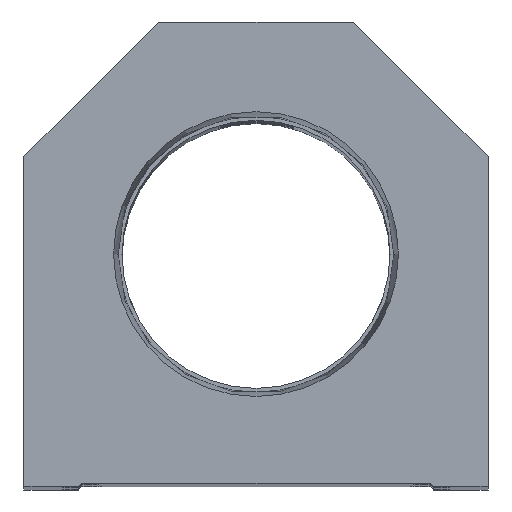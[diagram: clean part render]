
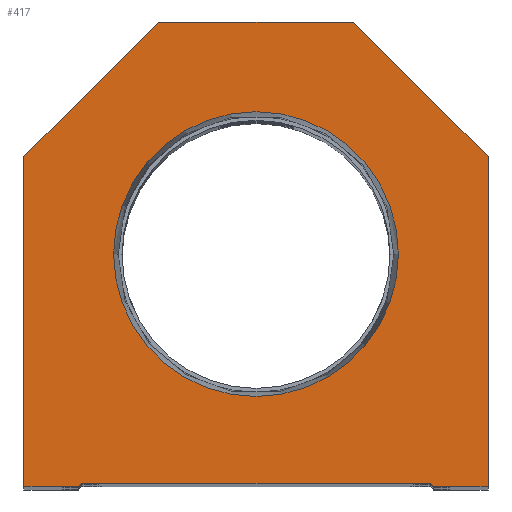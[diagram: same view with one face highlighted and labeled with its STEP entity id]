
A CAD part, top view. The second image highlights one B-rep face of the part: STEP entity #417.
In plain terms, the highlighted planar face has unit normal (0, 0, 1).
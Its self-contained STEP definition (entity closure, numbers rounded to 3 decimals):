
#32 = EDGE_CURVE ( 'NONE', #4932, #18296, #14459, .T. ) ;
#224 = CARTESIAN_POINT ( 'NONE',  ( -38.1, 0., 0. ) ) ;
#239 = EDGE_CURVE ( 'NONE', #10176, #18391, #8697, .T. ) ;
#417 = ADVANCED_FACE ( 'NONE', ( #17327, #5953 ), #9272, .T. ) ;
#639 = EDGE_LOOP ( 'NONE', ( #13452, #16260, #19597, #16069, #16029, #6129, #15986, #8001, #9970, #10981 ) ) ;
#815 = DIRECTION ( 'NONE',  ( 0., 1., 0. ) ) ;
#915 = VERTEX_POINT ( 'NONE', #11599 ) ;
#965 = CARTESIAN_POINT ( 'NONE',  ( -23.374, 38.1, 0. ) ) ;
#1242 = CARTESIAN_POINT ( 'NONE',  ( 0., 38.1, 0. ) ) ;
#1519 = DIRECTION ( 'NONE',  ( -0.707, -0.707, 0. ) ) ;
#1606 = DIRECTION ( 'NONE',  ( 1., 0., 0. ) ) ;
#1734 = EDGE_CURVE ( 'NONE', #18391, #10176, #9438, .T. ) ;
#1834 = VECTOR ( 'NONE', #6836, 1000. ) ;
#1920 = LINE ( 'NONE', #2223, #4078 ) ;
#2096 = CARTESIAN_POINT ( 'NONE',  ( -29.1, 0., 0. ) ) ;
#2223 = CARTESIAN_POINT ( 'NONE',  ( -28.6, 0., 0. ) ) ;
#2605 = VERTEX_POINT ( 'NONE', #11393 ) ;
#3098 = CARTESIAN_POINT ( 'NONE',  ( 29.1, 0., 0. ) ) ;
#3521 = EDGE_CURVE ( 'NONE', #14079, #20235, #7235, .T. ) ;
#3636 = AXIS2_PLACEMENT_3D ( 'NONE', #1242, #4751, #19134 ) ;
#4060 = LINE ( 'NONE', #21085, #21031 ) ;
#4078 = VECTOR ( 'NONE', #5227, 1000. ) ;
#4221 = CARTESIAN_POINT ( 'NONE',  ( 38.1, 0., 0. ) ) ;
#4584 = AXIS2_PLACEMENT_3D ( 'NONE', #17565, #4789, #9825 ) ;
#4698 = CARTESIAN_POINT ( 'NONE',  ( -28.6, 0.5, 0. ) ) ;
#4751 = DIRECTION ( 'NONE',  ( 0., 0., 1. ) ) ;
#4789 = DIRECTION ( 'NONE',  ( 0., 0., 1. ) ) ;
#4932 = VERTEX_POINT ( 'NONE', #14924 ) ;
#4945 = CARTESIAN_POINT ( 'NONE',  ( 38.1, 54.1, 0. ) ) ;
#5227 = DIRECTION ( 'NONE',  ( 1., 0., 0. ) ) ;
#5790 = VECTOR ( 'NONE', #815, 1000. ) ;
#5953 = FACE_OUTER_BOUND ( 'NONE', #639, .T. ) ;
#6129 = ORIENTED_EDGE ( 'NONE', *, *, #3521, .T. ) ;
#6169 = EDGE_CURVE ( 'NONE', #9382, #16173, #1920, .T. ) ;
#6661 = LINE ( 'NONE', #224, #8600 ) ;
#6762 = DIRECTION ( 'NONE',  ( 0., -1., 0. ) ) ;
#6836 = DIRECTION ( 'NONE',  ( 0.707, -0.707, 0. ) ) ;
#7235 = LINE ( 'NONE', #4221, #5790 ) ;
#7550 = CARTESIAN_POINT ( 'NONE',  ( 0., 0., 0. ) ) ;
#7777 = CARTESIAN_POINT ( 'NONE',  ( 16., 76.2, 0. ) ) ;
#7917 = EDGE_LOOP ( 'NONE', ( #14596, #8285 ) ) ;
#8001 = ORIENTED_EDGE ( 'NONE', *, *, #18330, .T. ) ;
#8072 = VECTOR ( 'NONE', #9860, 1000. ) ;
#8285 = ORIENTED_EDGE ( 'NONE', *, *, #1734, .F. ) ;
#8600 = VECTOR ( 'NONE', #6762, 1000. ) ;
#8697 = CIRCLE ( 'NONE', #4584, 23.374 ) ;
#9272 = PLANE ( 'NONE',  #11079 ) ;
#9344 = LINE ( 'NONE', #19220, #18331 ) ;
#9382 = VERTEX_POINT ( 'NONE', #15900 ) ;
#9438 = CIRCLE ( 'NONE', #3636, 23.374 ) ;
#9623 = VERTEX_POINT ( 'NONE', #3098 ) ;
#9649 = LINE ( 'NONE', #13090, #8072 ) ;
#9825 = DIRECTION ( 'NONE',  ( 1., 0., 0. ) ) ;
#9860 = DIRECTION ( 'NONE',  ( -1., 0., 0. ) ) ;
#9970 = ORIENTED_EDGE ( 'NONE', *, *, #17248, .T. ) ;
#10176 = VERTEX_POINT ( 'NONE', #15821 ) ;
#10475 = CARTESIAN_POINT ( 'NONE',  ( -14.55, 14.55, 0. ) ) ;
#10664 = LINE ( 'NONE', #10475, #14108 ) ;
#10981 = ORIENTED_EDGE ( 'NONE', *, *, #12459, .T. ) ;
#11079 = AXIS2_PLACEMENT_3D ( 'NONE', #7550, #12367, #13894 ) ;
#11138 = LINE ( 'NONE', #14799, #16233 ) ;
#11393 = CARTESIAN_POINT ( 'NONE',  ( -16., 76.2, 0. ) ) ;
#11599 = CARTESIAN_POINT ( 'NONE',  ( -38.1, 54.1, 0. ) ) ;
#11863 = DIRECTION ( 'NONE',  ( 0.707, 0.707, 0. ) ) ;
#12367 = DIRECTION ( 'NONE',  ( 0., 0., 1. ) ) ;
#12459 = EDGE_CURVE ( 'NONE', #915, #9382, #6661, .T. ) ;
#12711 = DIRECTION ( 'NONE',  ( -0.707, 0.707, 0. ) ) ;
#13064 = LINE ( 'NONE', #16500, #1834 ) ;
#13090 = CARTESIAN_POINT ( 'NONE',  ( 16., 76.2, 0. ) ) ;
#13452 = ORIENTED_EDGE ( 'NONE', *, *, #6169, .T. ) ;
#13894 = DIRECTION ( 'NONE',  ( 1., 0., 0. ) ) ;
#14079 = VERTEX_POINT ( 'NONE', #18584 ) ;
#14108 = VECTOR ( 'NONE', #11863, 1000. ) ;
#14268 = CARTESIAN_POINT ( 'NONE',  ( 28.6, 0.5, 0. ) ) ;
#14459 = LINE ( 'NONE', #4698, #16730 ) ;
#14518 = EDGE_CURVE ( 'NONE', #16173, #4932, #10664, .T. ) ;
#14596 = ORIENTED_EDGE ( 'NONE', *, *, #239, .F. ) ;
#14799 = CARTESIAN_POINT ( 'NONE',  ( 28.6, 0., 0. ) ) ;
#14924 = CARTESIAN_POINT ( 'NONE',  ( -28.6, 0.5, 0. ) ) ;
#15243 = EDGE_CURVE ( 'NONE', #18296, #9623, #13064, .T. ) ;
#15783 = EDGE_CURVE ( 'NONE', #9623, #14079, #11138, .T. ) ;
#15821 = CARTESIAN_POINT ( 'NONE',  ( 23.374, 38.1, 0. ) ) ;
#15900 = CARTESIAN_POINT ( 'NONE',  ( -38.1, 0., 0. ) ) ;
#15984 = EDGE_CURVE ( 'NONE', #20235, #18973, #4060, .T. ) ;
#15986 = ORIENTED_EDGE ( 'NONE', *, *, #15984, .T. ) ;
#16029 = ORIENTED_EDGE ( 'NONE', *, *, #15783, .T. ) ;
#16069 = ORIENTED_EDGE ( 'NONE', *, *, #15243, .T. ) ;
#16173 = VERTEX_POINT ( 'NONE', #2096 ) ;
#16233 = VECTOR ( 'NONE', #18135, 1000. ) ;
#16260 = ORIENTED_EDGE ( 'NONE', *, *, #14518, .T. ) ;
#16500 = CARTESIAN_POINT ( 'NONE',  ( 14.55, 14.55, 0. ) ) ;
#16730 = VECTOR ( 'NONE', #1606, 1000. ) ;
#17248 = EDGE_CURVE ( 'NONE', #2605, #915, #9344, .T. ) ;
#17327 = FACE_BOUND ( 'NONE', #7917, .T. ) ;
#17565 = CARTESIAN_POINT ( 'NONE',  ( 0., 38.1, 0. ) ) ;
#18135 = DIRECTION ( 'NONE',  ( 1., 0., 0. ) ) ;
#18296 = VERTEX_POINT ( 'NONE', #14268 ) ;
#18330 = EDGE_CURVE ( 'NONE', #18973, #2605, #9649, .T. ) ;
#18331 = VECTOR ( 'NONE', #1519, 1000. ) ;
#18391 = VERTEX_POINT ( 'NONE', #965 ) ;
#18584 = CARTESIAN_POINT ( 'NONE',  ( 38.1, 0., 0. ) ) ;
#18973 = VERTEX_POINT ( 'NONE', #7777 ) ;
#19134 = DIRECTION ( 'NONE',  ( 1., 0., 0. ) ) ;
#19220 = CARTESIAN_POINT ( 'NONE',  ( -38.1, 54.1, 0. ) ) ;
#19597 = ORIENTED_EDGE ( 'NONE', *, *, #32, .T. ) ;
#20235 = VERTEX_POINT ( 'NONE', #4945 ) ;
#21031 = VECTOR ( 'NONE', #12711, 1000. ) ;
#21085 = CARTESIAN_POINT ( 'NONE',  ( 38.1, 54.1, 0. ) ) ;
